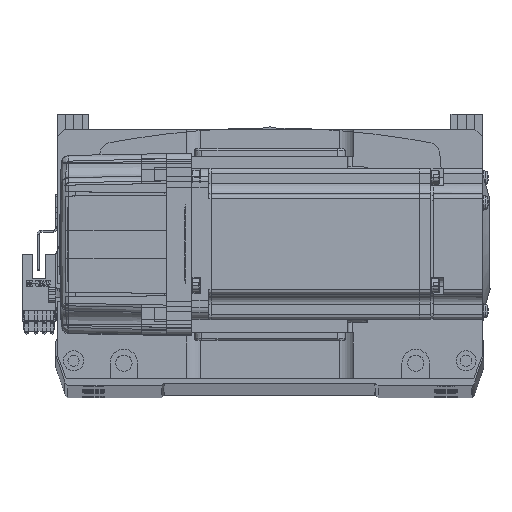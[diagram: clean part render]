
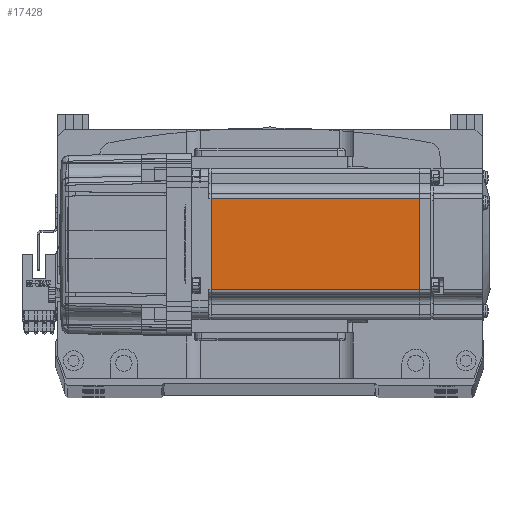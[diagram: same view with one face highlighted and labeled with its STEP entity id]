
A CAD part, top view. The second image highlights one B-rep face of the part: STEP entity #17428.
In plain terms, the highlighted planar face has unit normal (0, 0, 1) as drawn and (0, -1, 0) by its records, which use the part's own axes.
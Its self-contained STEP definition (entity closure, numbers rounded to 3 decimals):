
#8396 = VERTEX_POINT ( 'NONE', #20968 ) ;
#10004 = EDGE_CURVE ( 'NONE', #68431, #59252, #10325, .T. ) ;
#10325 = LINE ( 'NONE', #41794, #32243 ) ;
#16656 = EDGE_CURVE ( 'NONE', #20674, #68431, #25869, .T. ) ;
#17428 = ADVANCED_FACE ( 'NONE', ( #40194 ), #52052, .T. ) ;
#19166 = CARTESIAN_POINT ( 'NONE',  ( -6.5, -30., -25. ) ) ;
#20674 = VERTEX_POINT ( 'NONE', #48413 ) ;
#20968 = CARTESIAN_POINT ( 'NONE',  ( -7.75, -30., 18. ) ) ;
#21498 = ORIENTED_EDGE ( 'NONE', *, *, #62802, .T. ) ;
#22628 = CARTESIAN_POINT ( 'NONE',  ( -7.75, -30., -18. ) ) ;
#24870 = AXIS2_PLACEMENT_3D ( 'NONE', #19166, #51841, #45884 ) ;
#25057 = LINE ( 'NONE', #30929, #57333 ) ;
#25869 = LINE ( 'NONE', #67720, #35177 ) ;
#30242 = DIRECTION ( 'NONE',  ( 0., 0., -1. ) ) ;
#30929 = CARTESIAN_POINT ( 'NONE',  ( -7.75, -30., -25. ) ) ;
#32243 = VECTOR ( 'NONE', #36354, 1000. ) ;
#34968 = EDGE_LOOP ( 'NONE', ( #69677, #21498, #40776, #56725 ) ) ;
#35039 = VECTOR ( 'NONE', #63113, 1000. ) ;
#35177 = VECTOR ( 'NONE', #30242, 1000. ) ;
#36354 = DIRECTION ( 'NONE',  ( 1., 0., 0. ) ) ;
#40194 = FACE_OUTER_BOUND ( 'NONE', #34968, .T. ) ;
#40776 = ORIENTED_EDGE ( 'NONE', *, *, #16656, .T. ) ;
#41070 = CARTESIAN_POINT ( 'NONE',  ( -90.45, -30., -18. ) ) ;
#41794 = CARTESIAN_POINT ( 'NONE',  ( -6.5, -30., -18. ) ) ;
#45884 = DIRECTION ( 'NONE',  ( 0., 0., -1. ) ) ;
#48413 = CARTESIAN_POINT ( 'NONE',  ( -90.45, -30., 18. ) ) ;
#51160 = LINE ( 'NONE', #51737, #35039 ) ;
#51737 = CARTESIAN_POINT ( 'NONE',  ( -6.5, -30., 18. ) ) ;
#51841 = DIRECTION ( 'NONE',  ( 0., -1., 0. ) ) ;
#52052 = PLANE ( 'NONE',  #24870 ) ;
#52993 = DIRECTION ( 'NONE',  ( 0., 0., 1. ) ) ;
#56725 = ORIENTED_EDGE ( 'NONE', *, *, #10004, .T. ) ;
#57333 = VECTOR ( 'NONE', #52993, 1000. ) ;
#59252 = VERTEX_POINT ( 'NONE', #22628 ) ;
#62802 = EDGE_CURVE ( 'NONE', #8396, #20674, #51160, .T. ) ;
#63113 = DIRECTION ( 'NONE',  ( -1., 0., 0. ) ) ;
#63816 = EDGE_CURVE ( 'NONE', #59252, #8396, #25057, .T. ) ;
#67720 = CARTESIAN_POINT ( 'NONE',  ( -90.45, -30., -25. ) ) ;
#68431 = VERTEX_POINT ( 'NONE', #41070 ) ;
#69677 = ORIENTED_EDGE ( 'NONE', *, *, #63816, .T. ) ;
